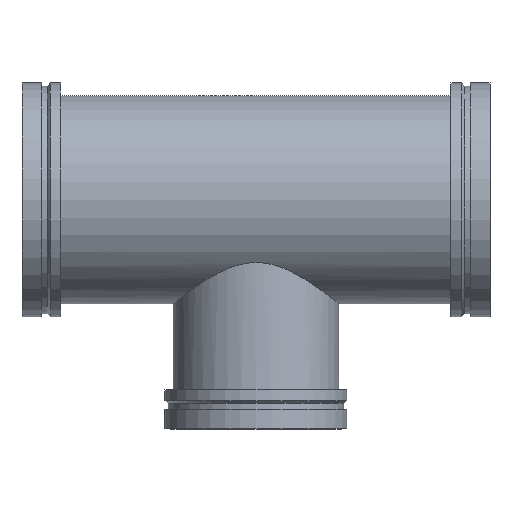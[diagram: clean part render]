
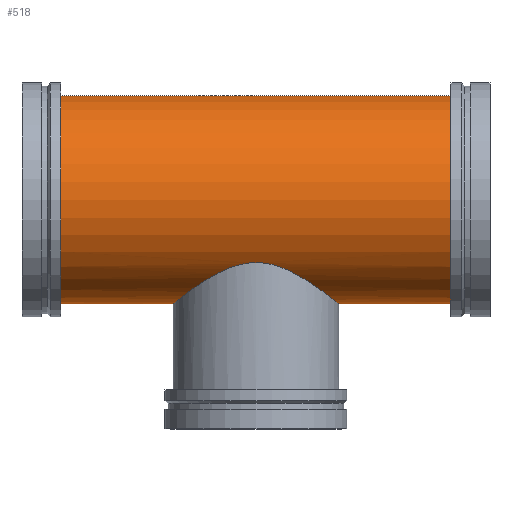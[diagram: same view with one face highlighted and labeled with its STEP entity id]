
A CAD part, top view. The second image highlights one B-rep face of the part: STEP entity #518.
In plain terms, the highlighted cylindrical face has radius 203.2 mm (diameter 406.4 mm), a full revolution.
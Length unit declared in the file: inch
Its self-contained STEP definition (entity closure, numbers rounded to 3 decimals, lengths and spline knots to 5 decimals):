
#51=FACE_BOUND('',#106,.T.);
#77=FACE_OUTER_BOUND('',#105,.T.);
#105=EDGE_LOOP('',(#381,#382,#383,#384,#385,#386));
#106=EDGE_LOOP('',(#387,#388));
#145=CIRCLE('',#580,8.);
#146=CIRCLE('',#581,8.);
#147=CIRCLE('',#582,8.);
#148=CIRCLE('',#583,8.);
#183=LINE('',#1056,#199);
#199=VECTOR('',#704,8.);
#211=B_SPLINE_CURVE_WITH_KNOTS('',3,(#926,#927,#928,#929,#930,#931,#932,
#933,#934,#935,#936,#937,#938,#939,#940,#941,#942,#943,#944,#945,#946,#947,
#948,#949,#950,#951,#952,#953,#954,#955,#956,#957,#958,#959,#960,#961,#962,
#963,#964,#965,#966,#967,#968,#969,#970,#971,#972,#973,#974,#975,#976,#977,
#978,#979,#980,#981,#982,#983,#984,#985,#986,#987),.UNSPECIFIED.,.F.,.F.,
(4,2,2,2,2,2,2,2,2,2,2,2,2,2,2,2,2,2,2,2,2,2,2,2,2,2,2,2,2,2,4),(0.,1.65821,
3.31641,6.63282,9.94923,13.26564,16.48143,
19.69721,22.91299,24.52089,26.12878,27.73667,
29.34456,32.56034,35.77613,38.99191,42.30832,
45.62473,48.94114,50.59935,52.25756,53.91576,
55.57397,58.89038,62.20679,65.5232,68.73898,
71.95477,75.17055,76.77844,78.38633),
 .UNSPECIFIED.);
#212=B_SPLINE_CURVE_WITH_KNOTS('',3,(#988,#989,#990,#991,#992,#993,#994,
#995,#996,#997,#998,#999,#1000,#1001,#1002,#1003,#1004,#1005,#1006,#1007,
#1008,#1009),.UNSPECIFIED.,.F.,.F.,(4,2,2,2,2,2,2,2,2,2,4),(78.38633,
79.99423,81.60212,84.8179,88.03368,91.24947,
94.56588,97.88229,101.1987,102.85691,104.51511),
 .UNSPECIFIED.);
#217=VERTEX_POINT('',#924);
#218=VERTEX_POINT('',#925);
#233=VERTEX_POINT('',#1051);
#234=VERTEX_POINT('',#1052);
#235=VERTEX_POINT('',#1055);
#236=VERTEX_POINT('',#1057);
#270=EDGE_CURVE('',#217,#218,#211,.T.);
#271=EDGE_CURVE('',#218,#217,#212,.T.);
#291=EDGE_CURVE('',#233,#234,#145,.T.);
#292=EDGE_CURVE('',#234,#233,#146,.T.);
#293=EDGE_CURVE('',#234,#235,#183,.T.);
#294=EDGE_CURVE('',#235,#236,#147,.T.);
#295=EDGE_CURVE('',#236,#235,#148,.T.);
#381=ORIENTED_EDGE('',*,*,#291,.F.);
#382=ORIENTED_EDGE('',*,*,#292,.F.);
#383=ORIENTED_EDGE('',*,*,#293,.T.);
#384=ORIENTED_EDGE('',*,*,#294,.T.);
#385=ORIENTED_EDGE('',*,*,#295,.T.);
#386=ORIENTED_EDGE('',*,*,#293,.F.);
#387=ORIENTED_EDGE('',*,*,#270,.T.);
#388=ORIENTED_EDGE('',*,*,#271,.T.);
#474=CYLINDRICAL_SURFACE('',#579,8.);
#518=ADVANCED_FACE('',(#77,#51),#474,.T.);
#579=AXIS2_PLACEMENT_3D('',#1050,#698,#699);
#580=AXIS2_PLACEMENT_3D('',#1053,#700,#701);
#581=AXIS2_PLACEMENT_3D('',#1054,#702,#703);
#582=AXIS2_PLACEMENT_3D('',#1058,#705,#706);
#583=AXIS2_PLACEMENT_3D('',#1059,#707,#708);
#698=DIRECTION('center_axis',(1.,0.,0.));
#699=DIRECTION('ref_axis',(0.,-1.,0.));
#700=DIRECTION('center_axis',(1.,0.,0.));
#701=DIRECTION('ref_axis',(0.,0.,1.));
#702=DIRECTION('center_axis',(1.,0.,0.));
#703=DIRECTION('ref_axis',(0.,0.,1.));
#704=DIRECTION('',(-1.,0.,0.));
#705=DIRECTION('center_axis',(1.,0.,0.));
#706=DIRECTION('ref_axis',(0.,0.,1.));
#707=DIRECTION('center_axis',(1.,0.,0.));
#708=DIRECTION('ref_axis',(0.,0.,1.));
#924=CARTESIAN_POINT('',(0.,-4.83315,6.375));
#925=CARTESIAN_POINT('',(-6.375,-8.,0.));
#926=CARTESIAN_POINT('Ctrl Pts',(0.,-4.83315,
6.375));
#927=CARTESIAN_POINT('Ctrl Pts',(0.21761,-4.83315,6.375));
#928=CARTESIAN_POINT('Ctrl Pts',(0.43446,-4.84797,6.36384));
#929=CARTESIAN_POINT('Ctrl Pts',(0.86389,-4.90514,6.31988));
#930=CARTESIAN_POINT('Ctrl Pts',(1.07647,-4.94745,6.28709));
#931=CARTESIAN_POINT('Ctrl Pts',(1.70425,-5.10884,6.15782));
#932=CARTESIAN_POINT('Ctrl Pts',(2.1096,-5.2624,6.03034));
#933=CARTESIAN_POINT('Ctrl Pts',(2.87917,-5.61534,5.70314));
#934=CARTESIAN_POINT('Ctrl Pts',(3.24396,-5.81455,5.5031));
#935=CARTESIAN_POINT('Ctrl Pts',(3.91973,-6.21691,5.04413));
#936=CARTESIAN_POINT('Ctrl Pts',(4.23061,-6.42,4.785));
#937=CARTESIAN_POINT('Ctrl Pts',(4.77659,-6.79239,4.23902));
#938=CARTESIAN_POINT('Ctrl Pts',(5.03366,-6.97659,3.93317));
#939=CARTESIAN_POINT('Ctrl Pts',(5.49455,-7.31609,3.25844));
#940=CARTESIAN_POINT('Ctrl Pts',(5.69838,-7.47126,2.88951));
#941=CARTESIAN_POINT('Ctrl Pts',(6.03121,-7.72811,2.1084));
#942=CARTESIAN_POINT('Ctrl Pts',(6.16049,-7.82996,1.69531));
#943=CARTESIAN_POINT('Ctrl Pts',(6.28944,-7.93195,1.06292));
#944=CARTESIAN_POINT('Ctrl Pts',(6.3217,-7.95758,0.85002));
#945=CARTESIAN_POINT('Ctrl Pts',(6.36448,-7.99161,0.42406));
#946=CARTESIAN_POINT('Ctrl Pts',(6.375,-8.,0.21101));
#947=CARTESIAN_POINT('Ctrl Pts',(6.375,-8.,-0.21101));
#948=CARTESIAN_POINT('Ctrl Pts',(6.36448,-7.99161,-0.42406));
#949=CARTESIAN_POINT('Ctrl Pts',(6.3217,-7.95758,-0.85002));
#950=CARTESIAN_POINT('Ctrl Pts',(6.28944,-7.93195,-1.06292));
#951=CARTESIAN_POINT('Ctrl Pts',(6.16049,-7.82996,-1.69531));
#952=CARTESIAN_POINT('Ctrl Pts',(6.03121,-7.72811,-2.1084));
#953=CARTESIAN_POINT('Ctrl Pts',(5.69838,-7.47126,-2.88951));
#954=CARTESIAN_POINT('Ctrl Pts',(5.49455,-7.31609,-3.25844));
#955=CARTESIAN_POINT('Ctrl Pts',(5.03366,-6.97659,-3.93317));
#956=CARTESIAN_POINT('Ctrl Pts',(4.77659,-6.79239,-4.23902));
#957=CARTESIAN_POINT('Ctrl Pts',(4.23061,-6.42,-4.785));
#958=CARTESIAN_POINT('Ctrl Pts',(3.91973,-6.21691,-5.04413));
#959=CARTESIAN_POINT('Ctrl Pts',(3.24396,-5.81455,-5.5031));
#960=CARTESIAN_POINT('Ctrl Pts',(2.87917,-5.61534,-5.70314));
#961=CARTESIAN_POINT('Ctrl Pts',(2.1096,-5.2624,-6.03034));
#962=CARTESIAN_POINT('Ctrl Pts',(1.70425,-5.10884,-6.15782));
#963=CARTESIAN_POINT('Ctrl Pts',(1.07647,-4.94745,-6.28709));
#964=CARTESIAN_POINT('Ctrl Pts',(0.86389,-4.90514,-6.31988));
#965=CARTESIAN_POINT('Ctrl Pts',(0.43446,-4.84797,-6.36384));
#966=CARTESIAN_POINT('Ctrl Pts',(0.21761,-4.83315,-6.375));
#967=CARTESIAN_POINT('Ctrl Pts',(-0.21761,-4.83315,-6.375));
#968=CARTESIAN_POINT('Ctrl Pts',(-0.43446,-4.84797,-6.36384));
#969=CARTESIAN_POINT('Ctrl Pts',(-0.86389,-4.90514,-6.31988));
#970=CARTESIAN_POINT('Ctrl Pts',(-1.07647,-4.94745,-6.28709));
#971=CARTESIAN_POINT('Ctrl Pts',(-1.70425,-5.10884,-6.15782));
#972=CARTESIAN_POINT('Ctrl Pts',(-2.1096,-5.2624,-6.03034));
#973=CARTESIAN_POINT('Ctrl Pts',(-2.87917,-5.61534,-5.70314));
#974=CARTESIAN_POINT('Ctrl Pts',(-3.24396,-5.81455,-5.5031));
#975=CARTESIAN_POINT('Ctrl Pts',(-3.91973,-6.21691,-5.04413));
#976=CARTESIAN_POINT('Ctrl Pts',(-4.23061,-6.42,-4.785));
#977=CARTESIAN_POINT('Ctrl Pts',(-4.77659,-6.79239,-4.23902));
#978=CARTESIAN_POINT('Ctrl Pts',(-5.03366,-6.97659,-3.93317));
#979=CARTESIAN_POINT('Ctrl Pts',(-5.49455,-7.31609,-3.25844));
#980=CARTESIAN_POINT('Ctrl Pts',(-5.69838,-7.47126,-2.88951));
#981=CARTESIAN_POINT('Ctrl Pts',(-6.03121,-7.72811,-2.1084));
#982=CARTESIAN_POINT('Ctrl Pts',(-6.16049,-7.82996,-1.69531));
#983=CARTESIAN_POINT('Ctrl Pts',(-6.28944,-7.93195,-1.06292));
#984=CARTESIAN_POINT('Ctrl Pts',(-6.3217,-7.95758,-0.85002));
#985=CARTESIAN_POINT('Ctrl Pts',(-6.36448,-7.99161,-0.42406));
#986=CARTESIAN_POINT('Ctrl Pts',(-6.375,-8.,-0.21101));
#987=CARTESIAN_POINT('Ctrl Pts',(-6.375,-8.,0.));
#988=CARTESIAN_POINT('Ctrl Pts',(-6.375,-8.,0.));
#989=CARTESIAN_POINT('Ctrl Pts',(-6.375,-8.,0.21101));
#990=CARTESIAN_POINT('Ctrl Pts',(-6.36448,-7.99161,0.42406));
#991=CARTESIAN_POINT('Ctrl Pts',(-6.3217,-7.95758,0.85002));
#992=CARTESIAN_POINT('Ctrl Pts',(-6.28944,-7.93195,1.06292));
#993=CARTESIAN_POINT('Ctrl Pts',(-6.16049,-7.82996,1.69531));
#994=CARTESIAN_POINT('Ctrl Pts',(-6.03121,-7.72811,2.1084));
#995=CARTESIAN_POINT('Ctrl Pts',(-5.69838,-7.47126,2.88951));
#996=CARTESIAN_POINT('Ctrl Pts',(-5.49455,-7.31609,3.25844));
#997=CARTESIAN_POINT('Ctrl Pts',(-5.03366,-6.97659,3.93317));
#998=CARTESIAN_POINT('Ctrl Pts',(-4.77659,-6.79239,4.23902));
#999=CARTESIAN_POINT('Ctrl Pts',(-4.23061,-6.42,4.785));
#1000=CARTESIAN_POINT('Ctrl Pts',(-3.91973,-6.21691,5.04413));
#1001=CARTESIAN_POINT('Ctrl Pts',(-3.24396,-5.81455,5.5031));
#1002=CARTESIAN_POINT('Ctrl Pts',(-2.87917,-5.61534,5.70314));
#1003=CARTESIAN_POINT('Ctrl Pts',(-2.1096,-5.2624,6.03034));
#1004=CARTESIAN_POINT('Ctrl Pts',(-1.70425,-5.10884,6.15782));
#1005=CARTESIAN_POINT('Ctrl Pts',(-1.07647,-4.94745,6.28709));
#1006=CARTESIAN_POINT('Ctrl Pts',(-0.86389,-4.90514,
6.31988));
#1007=CARTESIAN_POINT('Ctrl Pts',(-0.43446,-4.84797,
6.36384));
#1008=CARTESIAN_POINT('Ctrl Pts',(-0.21761,-4.83315,6.375));
#1009=CARTESIAN_POINT('Ctrl Pts',(0.,-4.83315,6.375));
#1050=CARTESIAN_POINT('Origin',(7.5,0.,0.));
#1051=CARTESIAN_POINT('',(15.,-8.,0.));
#1052=CARTESIAN_POINT('',(15.,8.,0.));
#1053=CARTESIAN_POINT('Origin',(15.,0.,0.));
#1054=CARTESIAN_POINT('Origin',(15.,0.,0.));
#1055=CARTESIAN_POINT('',(-15.,8.,0.));
#1056=CARTESIAN_POINT('',(7.5,8.,0.));
#1057=CARTESIAN_POINT('',(-15.,-8.,0.));
#1058=CARTESIAN_POINT('Origin',(-15.,0.,0.));
#1059=CARTESIAN_POINT('Origin',(-15.,0.,0.));
